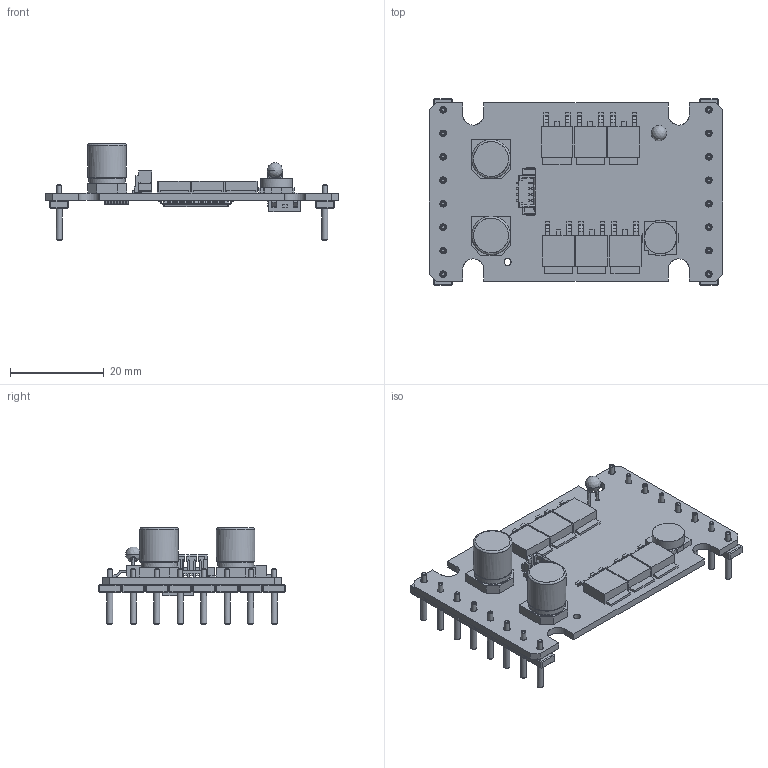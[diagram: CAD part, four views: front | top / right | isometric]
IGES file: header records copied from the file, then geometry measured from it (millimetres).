
Global section: file name: D:\Daten\PLM_Export\Spindel\MCBL_LM3003.igs; native system: NX V7.5; preprocessor: SIEMENS PLM Software NX 7.5; author: DR. FRITZ FAULHABER GmbH & Co. KG; organization: DR. FRITZ FAULHABER GmbH & Co. KG; date: 20111110.104701; units: millimetre
Bounding box: 62.5 x 39.8 x 20.65 mm (x, y, z)
Surface area: 8286.4 mm2 (no closed solid volume)
Topology: 0 solids, 0 shells, 2756 faces, 15348 edges, 15220 vertices
Faces by surface type: bspline 2756
